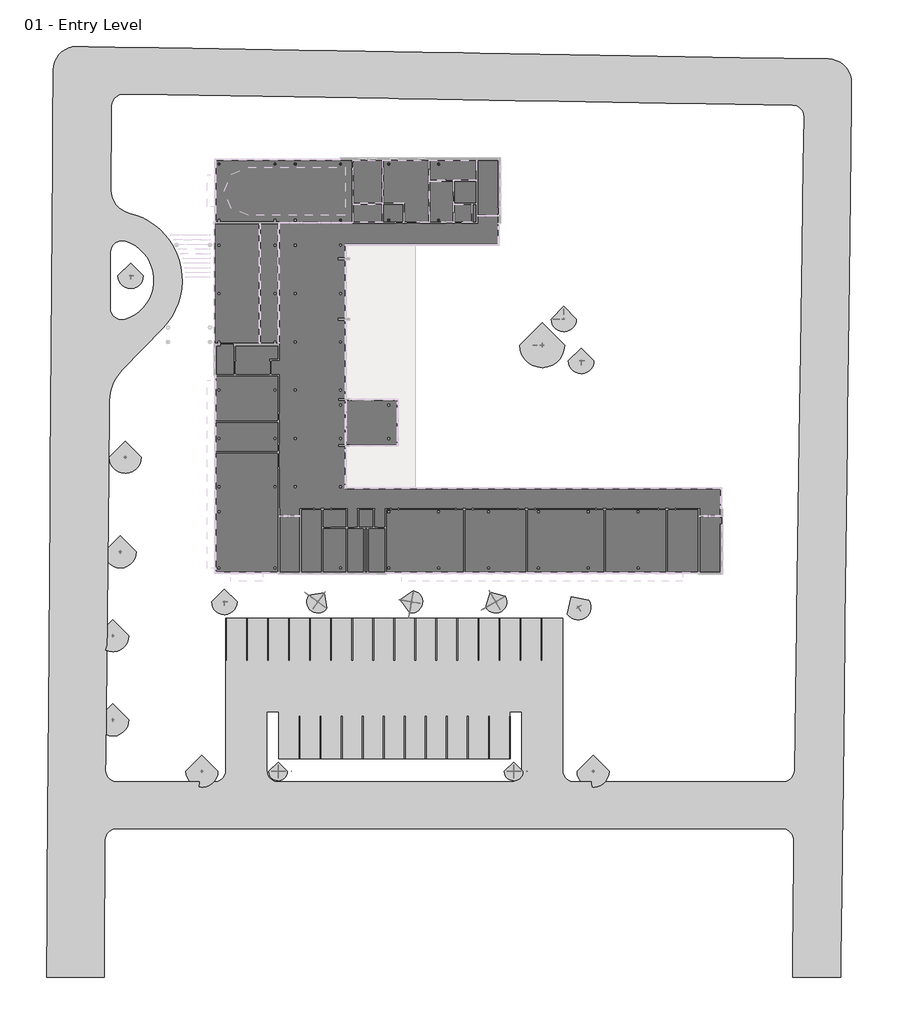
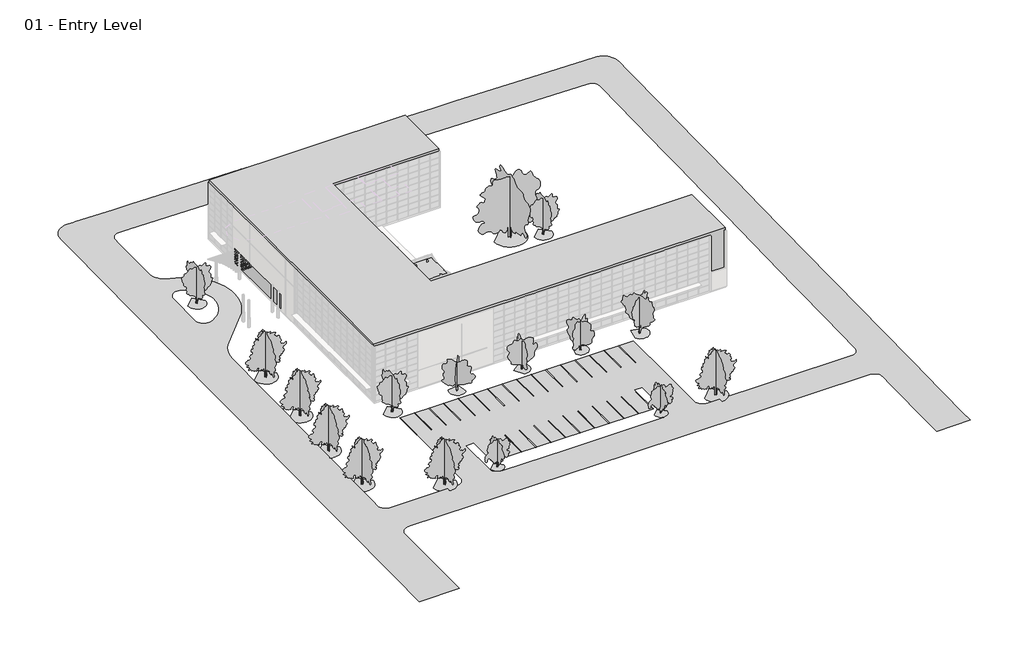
# One storey, part 34 of 34: 30 proxies, 17 geographic elements, 15 furniture elements, 9 columns.
"""IFC4 building model written with IfcOpenShell, lengths in millimetres."""

from ifc_helpers import new_model, si_unit, point, frame_2d, origin, origin_with_axes, place, context, project, spatial, polyline, circle_curve, trimmed, segment, composite_curve, outline, extrude, triangles, transform, mapped, element, save
from components import parking_space_9_x_18_90_deg_b8b21359, furniture_f004630c, rpc_tree_deciduous_american_beech_20_b3c041c8, rpc_tree_deciduous_golden_chain_18_92130817, rpc_tree_deciduous_honey_locust_25_cc46a1f1, rpc_tree_deciduous_red_ash_25_14781bec, rpc_tree_deciduous_red_maple_30_cba750cc, rpc_tree_deciduous_scarlet_oak_42_9b182cbb

model = new_model("IFC4")

# Units and contexts
model_context = context("Model", 3, world=origin())
ifc_project = project(units=[si_unit("LENGTHUNIT", "METRE", prefix="MILLI")], contexts=[model_context])

# Site, building, storey
site = spatial("IfcSite", under=ifc_project)
building = spatial("IfcBuilding", under=site)
storey = spatial("IfcBuildingStorey", under=building, Name="01 - Entry Level", Elevation=0.0)

# Proxies
placement = place(None, origin())
element("IfcBuildingElementProxy", 1, Name="Building Element Proxy", at=placement, inside=storey, context=model_context, shape_type="Tessellation", body=[
    triangles([(-20951.5374207, 65536.799707, 0.0), (-20952.3466736, 65428.1737793, 0.0), (-20960.1206177, 64383.2887207, 0.0), (-20996.1184204, 59545.0584595, 0.0), (-21005.5713318, 58274.2244019, 0.0), (-21027.088623, 55382.3730103, 0.0), (-21041.8109802, 53403.372876, 0.0), (-21336.539502, 13790.1222198, -63.9085037), (-21377.7997742, 8244.3444489, -68.5632705), (-21573.3855103, -18043.7230499, -82.5216981), (-21616.1294128, -23788.6921509, -81.5271458), (-21677.211731, -31998.81427, -82.899046), (-21737.5499084, -40108.6587891, -84.2541959), (-21771.6850342, -44696.5182861, -83.7693963), (-21831.9674011, -52798.8609375, -85.1033628), (-14322.3478729, -52798.8609375, -96.0960239), (-14281.4852509, -45101.0377808, -94.804642), (-14253.9253052, -39909.098877, -95.3369042), (-14227.4373871, -34919.2197327, -94.4872922), (-14187.690976, -34581.4310486, -94.4861658), (-14074.0176819, -34260.86922, -94.5979413), (-13892.0822754, -33973.5007141, -94.8170413), (-13650.9435059, -33733.6386108, -95.1325653), (-13362.6145935, -33553.2310181, -95.5287893), (-13041.4539642, -33441.2611084, -95.9859834), (-12703.458316, -33403.3099365, -96.4813747), (28841.9744019, -33403.3099365, -158.2045331), (74050.6428223, -33403.3099365, -225.3700736), (74391.5894531, -33441.9378113, -225.883487), (74715.253418, -33555.8634155, -226.3846374), (75005.2310669, -33739.3126831, -226.8481447), (75246.8116699, -33982.9838562, -227.2504639), (75427.7587646, -34274.5265259, -227.5712292), (75538.8915161, -34599.160199, -227.7941807), (75549.6303955, -34701.839978, -227.8284265), (75574.5823608, -34940.4277405, -227.9080001), (75552.4255737, -37514.2985413, -228.3336282), (75445.3948975, -49946.8768799, -226.9983899), (75420.8429077, -52798.8609375, -227.4630599), (81696.576123, -52798.8609375, -236.649545), (81726.7510254, -50286.1119873, -236.2526579), (81882.1275879, -37345.508844, -237.7074383), (81911.7443848, -34878.7152283, -237.3119864), (81941.7146484, -32382.6675842, -236.9118291), (82142.1861328, -15686.4832123, -239.9176413), (82234.2456299, -8018.5681137, -235.899718), (82253.6490967, -6402.5353592, -234.5542514), (82535.0365723, 17032.6975525, -196.8883819), (82579.7687256, 20757.7608765, -197.739529), (82630.5470215, 24987.3794495, -197.9025096), (82680.264917, 29127.9383423, -188.1372808), (82736.3173096, 33796.23479, -187.5318672), (82793.7463623, 38578.9986694, -187.7452808), (82855.6495605, 43735.1304565, -175.5348706), (82922.4361816, 49297.5351196, -171.8794796), (83062.6973877, 60978.7569946, -168.736957), (83097.2441162, 63856.4046021, -167.7387803), (83057.5442139, 64384.6839844, -167.4271896), (82926.9754395, 64898.1084595, -166.8679396), (82709.4724365, 65381.1719971, -166.077926), (82411.6208496, 65819.2754883, -165.0810029), (82042.396875, 66199.1871826, -163.90731), (81612.9812256, 66509.4333618, -162.592274), (81136.3219482, 66740.637854, -161.1756453), (80626.8367676, 66885.8150391, -159.7002266), (80099.9014893, 66940.5791382, -158.2105647), (68550.9785156, 67131.7163086, -125.9449015), (54223.2577148, 67368.8413696, -85.4636152), (50301.6133667, 67433.7443848, -75.3097337), (34613.6197815, 67693.3796997, -53.6210048), (32524.7007751, 67727.9496826, -47.7922091), (30878.3966125, 67755.1991821, -43.3861009), (16017.8153137, 68001.1423096, -27.5484457), (15150.1694366, 68015.4995728, -25.3253051), (14493.3560394, 68026.3686768, -23.5577077), (-2856.9395691, 68313.5185913, 0.0), (-6105.6604568, 68367.2827515, 0.0), (-7229.526741, 68385.8862671, 0.0), (-9490.7486023, 68423.3072388, 0.0), (-16418.6885193, 68537.9653564, 0.0), (-16858.905835, 68545.2486328, 0.0), (-17853.1846802, 68561.7080933, 0.0), (-18386.2044708, 68523.6778564, 0.0), (-18904.3914459, 68393.1462891, 0.0), (-19391.8163452, 68174.1177979, 0.0), (-19833.5010132, 67873.3361572, 0.0), (-20215.8637207, 67500.0333618, 0.0), (-20527.1586731, 67065.6924316, 0.0), (-20757.8120361, 66583.6613892, 0.0), (-20900.7358704, 66068.7532837, 0.0), (75444.1484619, 60920.7977417, -147.2674009), (75782.2208496, 60877.0748291, -148.2341296), (76102.1129517, 60759.2959717, -149.1720175), (76387.8257446, 60573.3631348, -150.034156), (76625.0624268, 60328.5734253, -150.7773974), (76801.9539551, 60037.1772583, -151.3645527), (76909.6543579, 59713.7504883, -151.7662632), (76942.7639648, 59374.4735229, -151.9624086), (76850.2951904, 53121.041272, -153.5956937), (76776.9415283, 48160.2975586, -156.8201517), (76689.807312, 42267.4991089, -170.7530767), (76625.6019287, 37925.6966858, -170.525656), (76562.9638916, 33689.4459595, -171.0435568), (76492.8890991, 28950.6421875, -182.206193), (76435.4181885, 25063.9980286, -182.0287329), (76384.816626, 21641.9650452, -181.2211877), (75988.185022, -5181.2186279, -224.2330609), (75960.7913452, -7033.8881012, -225.7679054), (75830.7248657, -15829.9302704, -230.3395559), (75683.2129395, -25805.8411194, -228.5016048), (75640.7550659, -26141.2322754, -228.3830438), (75525.3946655, -26459.0128784, -228.1569674), (75342.8197632, -26743.5396973, -227.8345126), (75102.0112061, -26980.8182373, -227.4315393), (74814.8101318, -27159.1678162, -226.9678867), (74495.3645142, -27269.8122253, -226.466373), (74159.3803711, -27307.3099365, -225.9516696), (46965.1193481, -27307.3099365, -184.7824166), (46625.9958618, -27269.0983154, -184.2751983), (46303.8759888, -27156.3865906, -183.8058047), (46014.9168823, -26974.820929, -183.3977264), (45773.6060303, -26733.5077515, -183.0714745), (45592.0403687, -26444.548645, -182.8433634), (45479.3263184, -26122.4310974, -182.7248569), (45441.1193481, -25783.3099365, -182.7219137), (45441.1193481, -16520.622995, -184.2210955), (45441.1193481, -5971.3087738, -178.4995515), (1550.3207771, -5971.3087738, -111.3510339), (1550.3207771, -17518.1690826, -117.6136059), (1550.3207771, -25711.2096863, -116.2875422), (1550.3207771, -25783.3099365, -116.3003866), (1512.1109001, -26122.4310974, -116.3040292), (1399.3972858, -26444.548645, -116.1939614), (1217.8319149, -26733.5077515, -115.9756971), (976.5191734, -26974.820929, -115.6601732), (687.5595583, -27156.3865906, -115.2632134), (365.4426647, -27269.0983154, -114.8047385), (26.3207476, -27307.3099365, -114.3077121), (-12624.7305634, -27307.3099365, -95.5123205), (-12966.0481018, -27268.5960205, -94.9983348), (-13290.0248383, -27154.4262451, -94.4966757), (-13580.2013123, -26970.5956055, -94.0328141), (-13821.8377258, -26726.4477173, -93.6303223), (-14002.6557587, -26434.3841492, -93.309657), (-14113.4687622, -26109.2435303, -93.087096), (-14148.649173, -25767.5457825, -92.973958), (-14134.602356, -24409.5612305, -92.7528959), (-14066.9878784, -17873.1183472, -93.9131993), (-13809.1117584, 7056.365799, -80.7869202), (-13754.7441467, 12312.215918, -76.3981075), (-13651.822522, 22261.9504578, -60.3845455), (-13595.1364471, 23030.6640015, -59.2122061), (-13441.8992889, 23786.0806824, -58.1899483), (-13194.5608978, 24516.1198425, -57.334123), (-12857.0756836, 25209.1101013, -56.6584103), (-12434.8386658, 25853.9753906, -56.1736152), (-11934.6005951, 26440.4023865, -55.8874908), (-6619.5267654, 31927.0837646, -54.0552988), (-6008.4547623, 32644.9562256, -53.7033172), (-5475.9047104, 33422.8645569, -53.1493812), (-5027.7297409, 34252.2534668, -52.3995814), (-4668.856588, 35124.0118835, -51.4621613), (-4403.2312317, 36028.5520203, -50.3474219), (-4233.7729706, 36955.9302979, -49.0676172), (-4162.3444817, 37895.9566406, -47.6368225), (-4189.7311821, 38838.2944702, -46.0707571), (-4315.6319275, 39772.5816284, -44.3866439), (-4538.6630814, 40688.5582764, -42.6029909), (-4856.3724678, 41576.1459595, -40.7394056), (-5265.2675674, 42425.5871338, -38.8163761), (-5760.8541779, 43227.5474854, -36.8550428), (-6337.6835037, 43973.2135986, -34.8769614), (-6989.4152344, 44654.3859741, -32.9038805), (-7708.8846909, 45263.5766968, -30.9574899), (-8488.1836349, 45794.088501, -29.0591819), (-9318.7445663, 46240.0938354, -27.2298264), (-10191.4383911, 46596.6813721, -25.4895347), (-11096.6703461, 46859.9397217, -23.8574328), (-11584.3254639, 47018.7300293, -22.9506613), (-12038.4535583, 47257.0317627, -21.9594381), (-12446.1984375, 47568.1057983, -20.9118322), (-12796.0166199, 47943.1387207, -19.8375019), (-13078.0028961, 48371.5125732, -18.7668584), (-13284.1751953, 48841.1025146, -17.7302189), (-13408.6955017, 49338.6116821, -16.7569282), (-13448.0384491, 49849.9572144, -15.8745443), (-13374.830127, 59689.6868408, 0.0), (-13366.1783295, 60852.5181885, 0.0), (-13324.9901459, 61193.2787842, 0.0), (-13208.5879486, 61516.175354, 0.0), (-13022.8771912, 61804.8321533, 0.0), (-12777.277066, 62044.6128662, 0.0), (-12484.2472778, 62223.3461426, 0.0), (-12158.6497101, 62331.9674194, 0.0), (-11817.0019592, 62364.974707, 0.0), (-10145.7039734, 62337.3112793, 0.0), (22812.1657104, 61791.8608521, -44.749199), (24059.8197876, 61771.2109497, -48.1068519), (25707.9610474, 61743.9335449, -52.3298318), (39240.2699341, 61519.9751221, -66.7518848), (41773.1990479, 61478.0520996, -73.5309178), (44987.114502, 61424.8646484, -82.4988343), (58871.4716675, 61195.0786743, -101.6940289), (64167.046106, 61107.4328613, -115.405265), (-13555.6202545, 34475.8979553, -40.6867425), (-13501.5572754, 41742.2660522, -28.9638321), (-13457.1878906, 42096.16073, -28.4484361), (-13331.7792664, 42430.0473267, -28.0733682), (-13132.2007507, 42725.6478882, -27.8591689), (-12869.3842346, 42966.7634033, -27.8175699), (-12557.7218628, 43140.1946777, -27.9508511), (-12214.2870117, 43236.4353149, -28.2517094), (-11857.8878357, 43250.2158691, -28.7036713), (-11508.0463989, 43180.7875488, -29.281979), (-10848.8610535, 42917.6640747, -30.5863939), (-10230.4453125, 42569.3551025, -31.9748288), (-9663.7490891, 42142.0230469, -33.4226987), (-9158.806073, 41643.2348877, -34.9043716), (-8724.5569977, 41081.8179932, -36.3936112), (-8368.6897659, 40467.7205933, -37.8640474), (-8097.5057373, 39811.811792, -39.2896485), (-7915.8069443, 39125.704834, -40.6451708), (-7826.810051, 38421.5478149, -41.9066172), (-7832.0905426, 37711.8097412, -43.0516463), (-7931.5548203, 37009.0549622, -44.0599878), (-8123.4431076, 36325.7269043, -44.9137919), (-8404.3561935, 35673.9248291, -45.5979344), (-8769.3211258, 35065.1898926, -46.1003065), (-9211.8760895, 34510.2981812, -46.4120154), (-9724.184935, 34019.0793274, -46.5275379), (-10297.176123, 33600.225824, -46.4448259), (-10920.7066681, 33261.1558228, -46.1653507), (-11583.7336395, 33007.871283, -45.6940586), (-11934.5703644, 32943.6542725, -45.3313627), (-12290.7242065, 32962.7391541, -44.826379), (-12632.6893799, 33064.07948, -44.2067584), (-12941.7356323, 33242.1267517, -43.5064378), (-13200.9360901, 33487.1257507, -42.7637824), (-13396.095108, 33785.6610168, -42.0194555), (-13516.5214783, 34121.3800598, -41.3142342), (6884.3204865, -18163.3087738, -125.584304), (8408.3204865, -18163.3087738, -127.891476), (8408.3204865, -24259.3099365, -126.9048265), (38583.1170227, -24259.3099365, -172.586286), (38583.1170227, -18163.3087738, -173.5729445), (40107.1193481, -18163.3087738, -175.8801075), (40107.1193481, -25783.3099365, -174.6467889), (40068.9077271, -26122.4310974, -174.5340596), (39956.1936768, -26444.548645, -174.3112897), (39774.6280151, -26733.5077515, -173.9896524), (39533.3171631, -26974.820929, -173.5852621), (39244.3580566, -27156.3865906, -173.1184301), (38922.2381836, -27269.0983154, -172.6125381), (38583.1170227, -27307.3099365, -172.0929477), (20783.3895447, -27307.3099365, -145.146046), (8408.3204865, -27307.3099365, -126.7606675), (8069.1987442, -27269.0983154, -126.2500337), (7747.081778, -27156.3865906, -125.7513995), (7458.1220901, -26974.820929, -125.2897453), (7216.809494, -26733.5077515, -124.8882436), (7035.2444138, -26444.548645, -124.567015), (6935.0011139, -26158.0707825, -124.3670545), (6922.5303635, -26122.4310974, -124.3539376), (6884.3204865, -25783.3099365, -124.3509853)], [[14, 15, 17], [16, 17, 15], [14, 17, 18], [12, 13, 19], [18, 19, 13], [13, 14, 18], [12, 19, 20], [22, 12, 21], [142, 12, 23], [23, 12, 22], [12, 142, 143], [24, 141, 142], [141, 24, 25], [23, 24, 142], [21, 12, 20], [12, 143, 144], [11, 146, 147], [146, 11, 145], [11, 144, 145], [11, 147, 148], [149, 9, 10], [148, 149, 10], [9, 150, 8], [10, 11, 148], [151, 8, 150], [151, 152, 8], [152, 153, 8], [8, 240, 205], [240, 153, 239], [240, 8, 153], [154, 239, 153], [150, 9, 149], [11, 12, 144], [8, 205, 7], [140, 25, 26], [26, 139, 140], [237, 238, 156], [238, 239, 155], [237, 157, 236], [238, 155, 156], [140, 141, 25], [157, 235, 236], [157, 158, 232], [231, 232, 158], [234, 235, 157], [232, 233, 157], [234, 157, 233], [158, 159, 229], [157, 237, 156], [230, 158, 229], [158, 230, 231], [227, 228, 160], [225, 226, 163], [227, 161, 226], [159, 228, 229], [161, 162, 226], [162, 163, 226], [163, 164, 225], [166, 222, 223], [224, 165, 223], [164, 165, 224], [222, 166, 167], [225, 164, 224], [222, 167, 168], [161, 227, 160], [159, 160, 228], [26, 138, 139], [155, 239, 154], [7, 206, 207], [185, 7, 184], [7, 207, 208], [7, 185, 186], [7, 186, 6], [187, 5, 6], [187, 4, 5], [187, 6, 186], [206, 7, 205], [183, 208, 209], [210, 182, 209], [182, 210, 181], [183, 209, 182], [187, 188, 4], [183, 184, 208], [184, 7, 208], [4, 188, 189], [1, 82, 90], [90, 82, 89], [82, 1, 2], [83, 87, 88], [84, 86, 87], [82, 88, 89], [2, 3, 81], [3, 190, 191], [190, 3, 189], [82, 83, 88], [191, 80, 3], [85, 86, 84], [87, 83, 84], [2, 81, 82], [80, 81, 3], [191, 192, 80], [3, 4, 189], [175, 215, 216], [173, 217, 218], [174, 216, 217], [211, 212, 180], [178, 213, 214], [179, 212, 213], [214, 215, 177], [170, 219, 220], [220, 221, 169], [168, 221, 222], [168, 169, 221], [218, 171, 172], [171, 219, 170], [220, 169, 170], [171, 218, 219], [218, 172, 173], [180, 181, 211], [179, 213, 178], [180, 212, 179], [194, 80, 193], [194, 195, 79], [194, 79, 80], [215, 176, 177], [176, 215, 175], [214, 177, 178], [78, 79, 196], [77, 78, 196], [196, 79, 195], [196, 76, 77], [216, 174, 175], [173, 174, 217], [193, 80, 192], [181, 210, 211], [26, 257, 137], [136, 257, 258], [257, 136, 137], [26, 137, 138], [134, 135, 259], [258, 259, 135], [135, 136, 258], [260, 134, 259], [255, 256, 27], [27, 254, 255], [254, 27, 253], [257, 26, 256], [120, 252, 253], [250, 251, 122], [252, 121, 251], [253, 27, 119], [256, 26, 27], [132, 133, 262], [262, 263, 132], [133, 261, 262], [132, 263, 131], [130, 131, 264], [264, 241, 130], [131, 263, 264], [260, 261, 133], [243, 244, 245], [248, 249, 124], [246, 247, 125], [245, 246, 127], [248, 125, 247], [133, 134, 260], [243, 245, 242], [250, 123, 249], [129, 130, 241], [39, 41, 38], [44, 32, 33], [28, 29, 117], [115, 30, 31], [116, 29, 30], [31, 32, 44], [118, 27, 28], [41, 42, 38], [41, 39, 40], [42, 37, 38], [37, 42, 36], [34, 35, 43], [36, 43, 35], [43, 36, 42], [33, 34, 44], [43, 44, 34], [121, 252, 120], [27, 118, 119], [253, 119, 120], [124, 125, 248], [122, 123, 250], [124, 249, 123], [121, 122, 251], [117, 29, 116], [31, 114, 115], [115, 116, 30], [118, 28, 117], [113, 114, 44], [111, 112, 44], [110, 111, 44], [113, 44, 112], [44, 45, 110], [44, 114, 31], [246, 125, 126], [129, 241, 128], [128, 241, 242], [128, 245, 127], [126, 127, 246], [242, 245, 128], [165, 166, 223], [47, 107, 108], [48, 106, 107], [108, 109, 46], [67, 91, 66], [66, 92, 93], [66, 91, 92], [204, 91, 67], [197, 198, 72], [199, 72, 198], [72, 199, 71], [197, 72, 73], [75, 76, 196], [73, 74, 197], [75, 197, 74], [197, 75, 196], [70, 200, 201], [69, 201, 202], [69, 202, 203], [70, 71, 200], [68, 69, 203], [67, 68, 203], [70, 201, 69], [203, 204, 67], [200, 71, 199], [93, 94, 66], [50, 104, 105], [47, 108, 46], [109, 45, 46], [103, 104, 51], [102, 103, 52], [101, 102, 53], [101, 54, 100], [107, 47, 48], [49, 106, 48], [50, 105, 106], [50, 106, 49], [51, 52, 103], [53, 54, 101], [52, 53, 102], [50, 51, 104], [100, 54, 55], [56, 96, 97], [97, 98, 56], [56, 95, 96], [57, 94, 95], [57, 65, 66], [58, 64, 65], [66, 94, 57], [98, 99, 56], [64, 58, 59], [95, 56, 57], [57, 58, 65], [62, 63, 60], [62, 60, 61], [60, 63, 59], [64, 59, 63], [56, 99, 55], [99, 100, 55], [110, 45, 109]], closed=False),
])
element("IfcBuildingElementProxy", 2, Name="Main Building : Main Building", ObjectType="Main Building : Main Building", at=placement, inside=storey, context=model_context, shape_type="SweptSolid", body=[
    extrude(outline(polyline([(140.6207476, 53.9), (140.6207476, 53724.1), (37046.8207476, 53724.1), (37046.8207476, 42852.9), (17082.4207476, 42852.9), (17082.4207476, 10899.7), (66207.5000011, 10899.7), (66207.5000011, 53.9), (140.6207476, 53.9)])), origin_with_axes(), (0.0, 0.0, 1.0), 11430.0),
])
parking_space_9_x_18_90_deg_shape = parking_space_9_x_18_90_deg_b8b21359(model_context)
element("IfcBuildingElementProxy", 3, Name="Parking Space : 9' x 18' - 90 deg", ObjectType="Parking Space : 9' x 18' - 90 deg", at=placement, inside=storey, context=model_context, shape_type="MappedRepresentation", body=[
    mapped(parking_space_9_x_18_90_deg_shape, transform((42697.9170451, -5971.3090298, -173.2887691), x_axis=(1.0, 0.0, 0.0), y_axis=(0.0, 1.0, 0.0), z_axis=(0.0, 0.0, 1.0))),
])
element("IfcBuildingElementProxy", 4, Name="Parking Space : 9' x 18' - 90 deg", ObjectType="Parking Space : 9' x 18' - 90 deg", at=placement, inside=storey, context=model_context, shape_type="MappedRepresentation", body=[
    mapped(parking_space_9_x_18_90_deg_shape, transform((11151.5207476, -24259.3090298, -130.2766543), x_axis=(-1.0, 0.0, 0.0), y_axis=(0.0, -1.0, 0.0), z_axis=(0.0, 0.0, 1.0))),
])
element("IfcBuildingElementProxy", 5, Name="Parking Space : 9' x 18' - 90 deg", ObjectType="Parking Space : 9' x 18' - 90 deg", at=placement, inside=storey, context=model_context, shape_type="MappedRepresentation", body=[
    mapped(parking_space_9_x_18_90_deg_shape, transform((39954.7170451, -5971.3090298, -169.325493), x_axis=(1.0, 0.0, 0.0), y_axis=(0.0, 1.0, 0.0), z_axis=(0.0, 0.0, 1.0))),
])
element("IfcBuildingElementProxy", 6, Name="Parking Space : 9' x 18' - 90 deg", ObjectType="Parking Space : 9' x 18' - 90 deg", at=placement, inside=storey, context=model_context, shape_type="MappedRepresentation", body=[
    mapped(parking_space_9_x_18_90_deg_shape, transform((37211.5170451, -5971.3090298, -165.1287215), x_axis=(1.0, 0.0, 0.0), y_axis=(0.0, 1.0, 0.0), z_axis=(0.0, 0.0, 1.0))),
])
element("IfcBuildingElementProxy", 7, Name="Parking Space : 9' x 18' - 90 deg", ObjectType="Parking Space : 9' x 18' - 90 deg", at=placement, inside=storey, context=model_context, shape_type="MappedRepresentation", body=[
    mapped(parking_space_9_x_18_90_deg_shape, transform((34468.3170451, -5971.3090298, -160.9319002), x_axis=(1.0, 0.0, 0.0), y_axis=(0.0, 1.0, 0.0), z_axis=(0.0, 0.0, 1.0))),
])
element("IfcBuildingElementProxy", 8, Name="Parking Space : 9' x 18' - 90 deg", ObjectType="Parking Space : 9' x 18' - 90 deg", at=placement, inside=storey, context=model_context, shape_type="MappedRepresentation", body=[
    mapped(parking_space_9_x_18_90_deg_shape, transform((31725.1170451, -5971.3090298, -156.7350789), x_axis=(1.0, 0.0, 0.0), y_axis=(0.0, 1.0, 0.0), z_axis=(0.0, 0.0, 1.0))),
])
element("IfcBuildingElementProxy", 9, Name="Parking Space : 9' x 18' - 90 deg", ObjectType="Parking Space : 9' x 18' - 90 deg", at=placement, inside=storey, context=model_context, shape_type="MappedRepresentation", body=[
    mapped(parking_space_9_x_18_90_deg_shape, transform((28981.9170451, -5971.3090298, -152.5382576), x_axis=(1.0, 0.0, 0.0), y_axis=(0.0, 1.0, 0.0), z_axis=(0.0, 0.0, 1.0))),
])
element("IfcBuildingElementProxy", 10, Name="Parking Space : 9' x 18' - 90 deg", ObjectType="Parking Space : 9' x 18' - 90 deg", at=placement, inside=storey, context=model_context, shape_type="MappedRepresentation", body=[
    mapped(parking_space_9_x_18_90_deg_shape, transform((26238.7170451, -5971.3090298, -148.3414362), x_axis=(1.0, 0.0, 0.0), y_axis=(0.0, 1.0, 0.0), z_axis=(0.0, 0.0, 1.0))),
])
element("IfcBuildingElementProxy", 11, Name="Parking Space : 9' x 18' - 90 deg", ObjectType="Parking Space : 9' x 18' - 90 deg", at=placement, inside=storey, context=model_context, shape_type="MappedRepresentation", body=[
    mapped(parking_space_9_x_18_90_deg_shape, transform((23495.5170451, -5971.3090298, -144.1446149), x_axis=(1.0, 0.0, 0.0), y_axis=(0.0, 1.0, 0.0), z_axis=(0.0, 0.0, 1.0))),
])
element("IfcBuildingElementProxy", 12, Name="Parking Space : 9' x 18' - 90 deg", ObjectType="Parking Space : 9' x 18' - 90 deg", at=placement, inside=storey, context=model_context, shape_type="MappedRepresentation", body=[
    mapped(parking_space_9_x_18_90_deg_shape, transform((20752.3170451, -5971.3090298, -139.9477936), x_axis=(1.0, 0.0, 0.0), y_axis=(0.0, 1.0, 0.0), z_axis=(0.0, 0.0, 1.0))),
])
element("IfcBuildingElementProxy", 13, Name="Parking Space : 9' x 18' - 90 deg", ObjectType="Parking Space : 9' x 18' - 90 deg", at=placement, inside=storey, context=model_context, shape_type="MappedRepresentation", body=[
    mapped(parking_space_9_x_18_90_deg_shape, transform((18009.1170451, -5971.3090298, -135.7509349), x_axis=(1.0, 0.0, 0.0), y_axis=(0.0, 1.0, 0.0), z_axis=(0.0, 0.0, 1.0))),
])
element("IfcBuildingElementProxy", 14, Name="Parking Space : 9' x 18' - 90 deg", ObjectType="Parking Space : 9' x 18' - 90 deg", at=placement, inside=storey, context=model_context, shape_type="MappedRepresentation", body=[
    mapped(parking_space_9_x_18_90_deg_shape, transform((15265.9170451, -5971.3090298, -131.5520962), x_axis=(1.0, 0.0, 0.0), y_axis=(0.0, 1.0, 0.0), z_axis=(0.0, 0.0, 1.0))),
])
element("IfcBuildingElementProxy", 15, Name="Parking Space : 9' x 18' - 90 deg", ObjectType="Parking Space : 9' x 18' - 90 deg", at=placement, inside=storey, context=model_context, shape_type="MappedRepresentation", body=[
    mapped(parking_space_9_x_18_90_deg_shape, transform((12522.7170451, -5971.3090298, -127.333322), x_axis=(1.0, 0.0, 0.0), y_axis=(0.0, 1.0, 0.0), z_axis=(0.0, 0.0, 1.0))),
])
element("IfcBuildingElementProxy", 16, Name="Parking Space : 9' x 18' - 90 deg", ObjectType="Parking Space : 9' x 18' - 90 deg", at=placement, inside=storey, context=model_context, shape_type="MappedRepresentation", body=[
    mapped(parking_space_9_x_18_90_deg_shape, transform((9779.5170451, -5971.3090298, -123.1145478), x_axis=(1.0, 0.0, 0.0), y_axis=(0.0, 1.0, 0.0), z_axis=(0.0, 0.0, 1.0))),
])
element("IfcBuildingElementProxy", 17, Name="Parking Space : 9' x 18' - 90 deg", ObjectType="Parking Space : 9' x 18' - 90 deg", at=placement, inside=storey, context=model_context, shape_type="MappedRepresentation", body=[
    mapped(parking_space_9_x_18_90_deg_shape, transform((7036.3170451, -5971.3090298, -118.9197844), x_axis=(1.0, 0.0, 0.0), y_axis=(0.0, 1.0, 0.0), z_axis=(0.0, 0.0, 1.0))),
])
element("IfcBuildingElementProxy", 18, Name="Parking Space : 9' x 18' - 90 deg", ObjectType="Parking Space : 9' x 18' - 90 deg", at=placement, inside=storey, context=model_context, shape_type="MappedRepresentation", body=[
    mapped(parking_space_9_x_18_90_deg_shape, transform((4293.1170451, -5971.3090298, -114.744916), x_axis=(1.0, 0.0, 0.0), y_axis=(0.0, 1.0, 0.0), z_axis=(0.0, 0.0, 1.0))),
])
element("IfcBuildingElementProxy", 19, Name="Parking Space : 9' x 18' - 90 deg", ObjectType="Parking Space : 9' x 18' - 90 deg", at=placement, inside=storey, context=model_context, shape_type="MappedRepresentation", body=[
    mapped(parking_space_9_x_18_90_deg_shape, transform((1549.9170451, -5971.3090298, -110.5700444), x_axis=(1.0, 0.0, 0.0), y_axis=(0.0, 1.0, 0.0), z_axis=(0.0, 0.0, 1.0))),
])
element("IfcBuildingElementProxy", 20, Name="Parking Space : 9' x 18' - 90 deg", ObjectType="Parking Space : 9' x 18' - 90 deg", at=placement, inside=storey, context=model_context, shape_type="MappedRepresentation", body=[
    mapped(parking_space_9_x_18_90_deg_shape, transform((13894.7207476, -24259.3090298, -134.4295698), x_axis=(-1.0, 0.0, 0.0), y_axis=(0.0, -1.0, 0.0), z_axis=(0.0, 0.0, 1.0))),
])
element("IfcBuildingElementProxy", 21, Name="Parking Space : 9' x 18' - 90 deg", ObjectType="Parking Space : 9' x 18' - 90 deg", at=placement, inside=storey, context=model_context, shape_type="MappedRepresentation", body=[
    mapped(parking_space_9_x_18_90_deg_shape, transform((16637.9207476, -24259.3090298, -138.5824852), x_axis=(-1.0, 0.0, 0.0), y_axis=(0.0, -1.0, 0.0), z_axis=(0.0, 0.0, 1.0))),
])
element("IfcBuildingElementProxy", 22, Name="Parking Space : 9' x 18' - 90 deg", ObjectType="Parking Space : 9' x 18' - 90 deg", at=placement, inside=storey, context=model_context, shape_type="MappedRepresentation", body=[
    mapped(parking_space_9_x_18_90_deg_shape, transform((19381.1207476, -24259.3090298, -142.7354006), x_axis=(-1.0, 0.0, 0.0), y_axis=(0.0, -1.0, 0.0), z_axis=(0.0, 0.0, 1.0))),
])
element("IfcBuildingElementProxy", 23, Name="Parking Space : 9' x 18' - 90 deg", ObjectType="Parking Space : 9' x 18' - 90 deg", at=placement, inside=storey, context=model_context, shape_type="MappedRepresentation", body=[
    mapped(parking_space_9_x_18_90_deg_shape, transform((22124.3207476, -24259.3090298, -146.8885369), x_axis=(-1.0, 0.0, 0.0), y_axis=(0.0, -1.0, 0.0), z_axis=(0.0, 0.0, 1.0))),
])
element("IfcBuildingElementProxy", 24, Name="Parking Space : 9' x 18' - 90 deg", ObjectType="Parking Space : 9' x 18' - 90 deg", at=placement, inside=storey, context=model_context, shape_type="MappedRepresentation", body=[
    mapped(parking_space_9_x_18_90_deg_shape, transform((24867.5207476, -24259.3090298, -151.0419482), x_axis=(-1.0, 0.0, 0.0), y_axis=(0.0, -1.0, 0.0), z_axis=(0.0, 0.0, 1.0))),
])
element("IfcBuildingElementProxy", 25, Name="Parking Space : 9' x 18' - 90 deg", ObjectType="Parking Space : 9' x 18' - 90 deg", at=placement, inside=storey, context=model_context, shape_type="MappedRepresentation", body=[
    mapped(parking_space_9_x_18_90_deg_shape, transform((27610.7207476, -24259.3090298, -155.1948637), x_axis=(-1.0, 0.0, 0.0), y_axis=(0.0, -1.0, 0.0), z_axis=(0.0, 0.0, 1.0))),
])
element("IfcBuildingElementProxy", 26, Name="Parking Space : 9' x 18' - 90 deg", ObjectType="Parking Space : 9' x 18' - 90 deg", at=placement, inside=storey, context=model_context, shape_type="MappedRepresentation", body=[
    mapped(parking_space_9_x_18_90_deg_shape, transform((30353.9207476, -24259.3090298, -159.3477791), x_axis=(-1.0, 0.0, 0.0), y_axis=(0.0, -1.0, 0.0), z_axis=(0.0, 0.0, 1.0))),
])
element("IfcBuildingElementProxy", 27, Name="Parking Space : 9' x 18' - 90 deg", ObjectType="Parking Space : 9' x 18' - 90 deg", at=placement, inside=storey, context=model_context, shape_type="MappedRepresentation", body=[
    mapped(parking_space_9_x_18_90_deg_shape, transform((33097.1207476, -24259.3090298, -163.497309), x_axis=(-1.0, 0.0, 0.0), y_axis=(0.0, -1.0, 0.0), z_axis=(0.0, 0.0, 1.0))),
])
element("IfcBuildingElementProxy", 28, Name="Parking Space : 9' x 18' - 90 deg", ObjectType="Parking Space : 9' x 18' - 90 deg", at=placement, inside=storey, context=model_context, shape_type="MappedRepresentation", body=[
    mapped(parking_space_9_x_18_90_deg_shape, transform((35840.3207476, -24259.3090298, -167.65361), x_axis=(-1.0, 0.0, 0.0), y_axis=(0.0, -1.0, 0.0), z_axis=(0.0, 0.0, 1.0))),
])
element("IfcBuildingElementProxy", 29, Name="Parking Space : 9' x 18' - 90 deg", ObjectType="Parking Space : 9' x 18' - 90 deg", at=placement, inside=storey, context=model_context, shape_type="MappedRepresentation", body=[
    mapped(parking_space_9_x_18_90_deg_shape, transform((38583.5207476, -24259.3090298, -171.7296187), x_axis=(-1.0, 0.0, 0.0), y_axis=(0.0, -1.0, 0.0), z_axis=(0.0, 0.0, 1.0))),
])
element("IfcBuildingElementProxy", 30, Name="Pavillion : Pavillion", ObjectType="Pavillion : Pavillion", at=placement, inside=storey, context=model_context, shape_type="SweptSolid", body=[
    extrude(outline(polyline([(23947.0115197, 16551.2), (17082.4207476, 16551.2), (17082.4207476, 22545.6), (23947.0115197, 22545.6), (23947.0115197, 16551.2)])), origin_with_axes(), (0.0, 0.0, 1.0), 6705.6),
])

# Columns
element("IfcColumn", 31, ObjectType="Concrete-Round-Column : 12\"", at=placement, inside=storey, context=model_context, shape_type="SweptSolid", body=[
    extrude(outline(composite_curve([segment(trimmed(circle_curve(frame_2d((635.9207476, 53228.8)), 152.4), [point((788.3207476, 53228.8))], [point((483.5207476, 53228.8))], False, "CARTESIAN"), True, "CONTINUOUS"), segment(trimmed(circle_curve(frame_2d((635.9207476, 53228.8)), 152.4), [point((483.5207476, 53228.8))], [point((788.3207476, 53228.8))], False, "CARTESIAN"), True, "CONTINUOUS")], self_intersect=False)), origin_with_axes(), (0.0, 0.0, 1.0), 3403.6),
])
element("IfcColumn", 32, ObjectType="Concrete-Round-Column : 12\"", at=placement, inside=storey, context=model_context, shape_type="SweptSolid", body=[
    extrude(outline(composite_curve([segment(trimmed(circle_curve(frame_2d((10592.7207476, 53228.8)), 152.4), [point((10745.1207476, 53228.8))], [point((10440.3207476, 53228.8))], False, "CARTESIAN"), True, "CONTINUOUS"), segment(trimmed(circle_curve(frame_2d((10592.7207476, 53228.8)), 152.4), [point((10440.3207476, 53228.8))], [point((10745.1207476, 53228.8))], False, "CARTESIAN"), True, "CONTINUOUS")], self_intersect=False)), origin_with_axes(), (0.0, 0.0, 1.0), 3403.6),
])
element("IfcColumn", 33, ObjectType="Concrete-Round-Column : 12\"", at=placement, inside=storey, context=model_context, shape_type="SweptSolid", body=[
    extrude(outline(composite_curve([segment(trimmed(circle_curve(frame_2d((16485.5207476, 53228.8)), 152.4), [point((16637.9207476, 53228.8))], [point((16333.1207476, 53228.8))], False, "CARTESIAN"), True, "CONTINUOUS"), segment(trimmed(circle_curve(frame_2d((16485.5207476, 53228.8)), 152.4), [point((16333.1207476, 53228.8))], [point((16637.9207476, 53228.8))], False, "CARTESIAN"), True, "CONTINUOUS")], self_intersect=False)), origin_with_axes(), (0.0, 0.0, 1.0), 3403.6),
])
element("IfcColumn", 34, ObjectType="Concrete-Round-Column : 12\"", at=placement, inside=storey, context=model_context, shape_type="SweptSolid", body=[
    extrude(outline(composite_curve([segment(trimmed(circle_curve(frame_2d((16485.5207476, 45913.6)), 152.4), [point((16637.9207476, 45913.6))], [point((16333.1207476, 45913.6))], False, "CARTESIAN"), True, "CONTINUOUS"), segment(trimmed(circle_curve(frame_2d((16485.5207476, 45913.6)), 152.4), [point((16333.1207476, 45913.6))], [point((16637.9207476, 45913.6))], False, "CARTESIAN"), True, "CONTINUOUS")], self_intersect=False)), origin_with_axes(), (0.0, 0.0, 1.0), 3403.6),
])
element("IfcColumn", 35, ObjectType="Concrete-Round-Column : 12\"", at=placement, inside=storey, context=model_context, shape_type="SweptSolid", body=[
    extrude(outline(composite_curve([segment(trimmed(circle_curve(frame_2d((22784.7207476, 53228.8)), 152.4), [point((22937.1207476, 53228.8))], [point((22632.3207476, 53228.8))], False, "CARTESIAN"), True, "CONTINUOUS"), segment(trimmed(circle_curve(frame_2d((22784.7207476, 53228.8)), 152.4), [point((22632.3207476, 53228.8))], [point((22937.1207476, 53228.8))], False, "CARTESIAN"), True, "CONTINUOUS")], self_intersect=False)), origin_with_axes(), (0.0, 0.0, 1.0), 3403.6),
])
element("IfcColumn", 36, ObjectType="Concrete-Round-Column : 12\"", at=placement, inside=storey, context=model_context, shape_type="SweptSolid", body=[
    extrude(outline(composite_curve([segment(trimmed(circle_curve(frame_2d((22784.7207476, 45913.6)), 152.4), [point((22937.1207476, 45913.6))], [point((22632.3207476, 45913.6))], False, "CARTESIAN"), True, "CONTINUOUS"), segment(trimmed(circle_curve(frame_2d((22784.7207476, 45913.6)), 152.4), [point((22632.3207476, 45913.6))], [point((22937.1207476, 45913.6))], False, "CARTESIAN"), True, "CONTINUOUS")], self_intersect=False)), origin_with_axes(), (0.0, 0.0, 1.0), 3403.6),
])
element("IfcColumn", 37, ObjectType="Concrete-Round-Column : 12\"", at=placement, inside=storey, context=model_context, shape_type="SweptSolid", body=[
    extrude(outline(composite_curve([segment(trimmed(circle_curve(frame_2d((29287.1207476, 53228.8)), 152.4), [point((29439.5207476, 53228.8))], [point((29134.7207476, 53228.8))], False, "CARTESIAN"), True, "CONTINUOUS"), segment(trimmed(circle_curve(frame_2d((29287.1207476, 53228.8)), 152.4), [point((29134.7207476, 53228.8))], [point((29439.5207476, 53228.8))], False, "CARTESIAN"), True, "CONTINUOUS")], self_intersect=False)), origin_with_axes(), (0.0, 0.0, 1.0), 3403.6),
])
element("IfcColumn", 38, ObjectType="Concrete-Round-Column : 12\"", at=placement, inside=storey, context=model_context, shape_type="SweptSolid", body=[
    extrude(outline(composite_curve([segment(trimmed(circle_curve(frame_2d((29287.1207476, 45913.6)), 152.4), [point((29439.5207476, 45913.6))], [point((29134.7207476, 45913.6))], False, "CARTESIAN"), True, "CONTINUOUS"), segment(trimmed(circle_curve(frame_2d((29287.1207476, 45913.6)), 152.4), [point((29134.7207476, 45913.6))], [point((29439.5207476, 45913.6))], False, "CARTESIAN"), True, "CONTINUOUS")], self_intersect=False)), origin_with_axes(), (0.0, 0.0, 1.0), 3403.6),
])
element("IfcColumn", 39, ObjectType="Concrete-Round-Column : 12\"", at=placement, inside=storey, context=model_context, shape_type="SweptSolid", body=[
    extrude(outline(composite_curve([segment(trimmed(circle_curve(frame_2d((7951.1207476, 53228.8)), 152.4), [point((8103.5207476, 53228.8))], [point((7798.7207476, 53228.8))], False, "CARTESIAN"), True, "CONTINUOUS"), segment(trimmed(circle_curve(frame_2d((7951.1207476, 53228.8)), 152.4), [point((7798.7207476, 53228.8))], [point((8103.5207476, 53228.8))], False, "CARTESIAN"), True, "CONTINUOUS")], self_intersect=False)), origin_with_axes(), (0.0, 0.0, 1.0), 3403.6),
])

# Furniture
furniture_shape = furniture_f004630c(model_context)
element("IfcFurniture", 40, ObjectType="Table-Dining Round w Chairs : 36\" Diameter", at=placement, inside=storey, context=model_context, shape_type="MappedRepresentation", body=[
    mapped(furniture_shape, transform((2221.3387804, 52334.1786885, 0.0), x_axis=(1.0, 0.0, 0.0), y_axis=(0.0, 1.0, 0.0), z_axis=(0.0, 0.0, 1.0))),
])
element("IfcFurniture", 41, ObjectType="Table-Dining Round w Chairs : 36\" Diameter", at=placement, inside=storey, context=model_context, shape_type="MappedRepresentation", body=[
    mapped(furniture_shape, transform((2221.3387804, 50048.1786885, 0.0), x_axis=(1.0, 0.0, 0.0), y_axis=(0.0, 1.0, 0.0), z_axis=(0.0, 0.0, 1.0))),
])
element("IfcFurniture", 42, ObjectType="Table-Dining Round w Chairs : 36\" Diameter", at=placement, inside=storey, context=model_context, shape_type="MappedRepresentation", body=[
    mapped(furniture_shape, transform((2221.3387804, 47470.0786885, 0.0), x_axis=(1.0, 0.0, 0.0), y_axis=(0.0, 1.0, 0.0), z_axis=(0.0, 0.0, 1.0))),
])
element("IfcFurniture", 43, ObjectType="Table-Dining Round w Chairs : 36\" Diameter", at=placement, inside=storey, context=model_context, shape_type="MappedRepresentation", body=[
    mapped(furniture_shape, transform((4354.9387804, 52334.1786885, 0.0), x_axis=(1.0, 0.0, 0.0), y_axis=(0.0, 1.0, 0.0), z_axis=(0.0, 0.0, 1.0))),
])
element("IfcFurniture", 44, ObjectType="Table-Dining Round w Chairs : 36\" Diameter", at=placement, inside=storey, context=model_context, shape_type="MappedRepresentation", body=[
    mapped(furniture_shape, transform((4354.9387804, 50048.1786885, 0.0), x_axis=(1.0, 0.0, 0.0), y_axis=(0.0, 1.0, 0.0), z_axis=(0.0, 0.0, 1.0))),
])
element("IfcFurniture", 45, ObjectType="Table-Dining Round w Chairs : 36\" Diameter", at=placement, inside=storey, context=model_context, shape_type="MappedRepresentation", body=[
    mapped(furniture_shape, transform((4354.9387804, 47470.0786885, 0.0), x_axis=(1.0, 0.0, 0.0), y_axis=(0.0, 1.0, 0.0), z_axis=(0.0, 0.0, 1.0))),
])
element("IfcFurniture", 46, ObjectType="Table-Dining Round w Chairs : 36\" Diameter", at=placement, inside=storey, context=model_context, shape_type="MappedRepresentation", body=[
    mapped(furniture_shape, transform((6488.5387804, 52334.1786885, 0.0), x_axis=(1.0, 0.0, 0.0), y_axis=(0.0, 1.0, 0.0), z_axis=(0.0, 0.0, 1.0))),
])
element("IfcFurniture", 47, ObjectType="Table-Dining Round w Chairs : 36\" Diameter", at=placement, inside=storey, context=model_context, shape_type="MappedRepresentation", body=[
    mapped(furniture_shape, transform((6488.5387804, 50048.1786885, 0.0), x_axis=(1.0, 0.0, 0.0), y_axis=(0.0, 1.0, 0.0), z_axis=(0.0, 0.0, 1.0))),
])
element("IfcFurniture", 48, ObjectType="Table-Dining Round w Chairs : 36\" Diameter", at=placement, inside=storey, context=model_context, shape_type="MappedRepresentation", body=[
    mapped(furniture_shape, transform((6488.5387804, 47470.0786885, 0.0), x_axis=(1.0, 0.0, 0.0), y_axis=(0.0, 1.0, 0.0), z_axis=(0.0, 0.0, 1.0))),
])
element("IfcFurniture", 49, ObjectType="Table-Dining Round w Chairs : 36\" Diameter", at=placement, inside=storey, context=model_context, shape_type="MappedRepresentation", body=[
    mapped(furniture_shape, transform((8622.1387804, 52334.1786885, 0.0), x_axis=(1.0, 0.0, 0.0), y_axis=(0.0, 1.0, 0.0), z_axis=(0.0, 0.0, 1.0))),
])
element("IfcFurniture", 50, ObjectType="Table-Dining Round w Chairs : 36\" Diameter", at=placement, inside=storey, context=model_context, shape_type="MappedRepresentation", body=[
    mapped(furniture_shape, transform((8622.1387804, 50048.1786885, 0.0), x_axis=(1.0, 0.0, 0.0), y_axis=(0.0, 1.0, 0.0), z_axis=(0.0, 0.0, 1.0))),
])
element("IfcFurniture", 51, ObjectType="Table-Dining Round w Chairs : 36\" Diameter", at=placement, inside=storey, context=model_context, shape_type="MappedRepresentation", body=[
    mapped(furniture_shape, transform((10755.7387804, 52334.1786885, 0.0), x_axis=(1.0, 0.0, 0.0), y_axis=(0.0, 1.0, 0.0), z_axis=(0.0, 0.0, 1.0))),
])
element("IfcFurniture", 52, ObjectType="Table-Dining Round w Chairs : 36\" Diameter", at=placement, inside=storey, context=model_context, shape_type="MappedRepresentation", body=[
    mapped(furniture_shape, transform((10755.7387804, 50048.1786885, 0.0), x_axis=(1.0, 0.0, 0.0), y_axis=(0.0, 1.0, 0.0), z_axis=(0.0, 0.0, 1.0))),
])
element("IfcFurniture", 53, ObjectType="Table-Dining Round w Chairs : 36\" Diameter", at=placement, inside=storey, context=model_context, shape_type="MappedRepresentation", body=[
    mapped(furniture_shape, transform((12889.3387804, 52334.1786885, 0.0), x_axis=(1.0, 0.0, 0.0), y_axis=(0.0, 1.0, 0.0), z_axis=(0.0, 0.0, 1.0))),
])
element("IfcFurniture", 54, ObjectType="Table-Dining Round w Chairs : 36\" Diameter", at=placement, inside=storey, context=model_context, shape_type="MappedRepresentation", body=[
    mapped(furniture_shape, transform((12889.3387804, 50048.1786885, 0.0), x_axis=(1.0, 0.0, 0.0), y_axis=(0.0, 1.0, 0.0), z_axis=(0.0, 0.0, 1.0))),
])

# Geographic elements
rpc_tree_deciduous_american_beech_20_shape = rpc_tree_deciduous_american_beech_20_b3c041c8(model_context)
element("IfcGeographicElement", 55, ObjectType="RPC Tree - Deciduous : American Beech - 20'", at=placement, inside=storey, context=model_context, shape_type="MappedRepresentation", body=[
    mapped(rpc_tree_deciduous_american_beech_20_shape, transform((13547.2665574, -3831.7512441, -128.5447402), x_axis=(0.8090169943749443, -0.5877852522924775, 0.0), y_axis=(0.5877852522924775, 0.8090169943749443, 0.0), z_axis=(0.0, 0.0, 1.0))),
])
element("IfcGeographicElement", 56, ObjectType="RPC Tree - Deciduous : American Beech - 20'", at=placement, inside=storey, context=model_context, shape_type="MappedRepresentation", body=[
    mapped(rpc_tree_deciduous_american_beech_20_shape, transform((25739.2665574, -3831.7512441, -147.1972794), x_axis=(0.17364817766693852, 0.9848077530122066, 0.0), y_axis=(-0.9848077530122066, 0.17364817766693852, 0.0), z_axis=(0.0, 0.0, 1.0))),
])
element("IfcGeographicElement", 57, ObjectType="RPC Tree - Deciduous : American Beech - 20'", at=placement, inside=storey, context=model_context, shape_type="MappedRepresentation", body=[
    mapped(rpc_tree_deciduous_american_beech_20_shape, transform((36712.0665574, -3831.7512441, -163.9845647), x_axis=(0.8660254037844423, 0.49999999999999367, 0.0), y_axis=(-0.49999999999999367, 0.8660254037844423, 0.0), z_axis=(0.0, 0.0, 1.0))),
])
rpc_tree_deciduous_golden_chain_18_shape = rpc_tree_deciduous_golden_chain_18_92130817(model_context)
element("IfcGeographicElement", 58, ObjectType="RPC Tree - Deciduous : Golden Chain - 18'", at=placement, inside=storey, context=model_context, shape_type="MappedRepresentation", body=[
    mapped(rpc_tree_deciduous_golden_chain_18_shape, transform((8353.455526, -25938.1012853, -126.7342662), x_axis=(1.0, 0.0, 0.0), y_axis=(0.0, 1.0, 0.0), z_axis=(0.0, 0.0, 1.0))),
])
element("IfcGeographicElement", 59, ObjectType="RPC Tree - Deciduous : Golden Chain - 18'", at=placement, inside=storey, context=model_context, shape_type="MappedRepresentation", body=[
    mapped(rpc_tree_deciduous_golden_chain_18_shape, transform((39068.1497902, -25938.1012853, -173.0488525), x_axis=(1.0, 0.0, 0.0), y_axis=(0.0, 1.0, 0.0), z_axis=(0.0, 0.0, 1.0))),
])
rpc_tree_deciduous_honey_locust_25_shape = rpc_tree_deciduous_honey_locust_25_cc46a1f1(model_context)
element("IfcGeographicElement", 60, ObjectType="RPC Tree - Deciduous : Honey Locust - 25'", at=placement, inside=storey, context=model_context, shape_type="MappedRepresentation", body=[
    mapped(rpc_tree_deciduous_honey_locust_25_shape, transform((47861.0628976, 27572.3926331, -133.6324115), x_axis=(1.0, 0.0, 0.0), y_axis=(0.0, 1.0, 0.0), z_axis=(0.0, 0.0, 1.0))),
])
element("IfcGeographicElement", 61, ObjectType="RPC Tree - Deciduous : Honey Locust - 25'", at=placement, inside=storey, context=model_context, shape_type="MappedRepresentation", body=[
    mapped(rpc_tree_deciduous_honey_locust_25_shape, transform((-10873.7978812, 38679.3054086, -37.4329675), x_axis=(1.0, 0.0, 0.0), y_axis=(0.0, 1.0, 0.0), z_axis=(0.0, 0.0, 1.0))),
])
element("IfcGeographicElement", 62, ObjectType="RPC Tree - Deciduous : Honey Locust - 25'", at=placement, inside=storey, context=model_context, shape_type="MappedRepresentation", body=[
    mapped(rpc_tree_deciduous_honey_locust_25_shape, transform((1355.2665574, -3831.7512441, -109.892201), x_axis=(1.0, 0.0, 0.0), y_axis=(0.0, 1.0, 0.0), z_axis=(0.0, 0.0, 1.0))),
])
element("IfcGeographicElement", 63, ObjectType="RPC Tree - Deciduous : Honey Locust - 25'", at=placement, inside=storey, context=model_context, shape_type="MappedRepresentation", body=[
    mapped(rpc_tree_deciduous_honey_locust_25_shape, transform((47472.8465525, -4542.1126932, -180.4349916), x_axis=(0.8386705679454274, 0.5446390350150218, 0.0), y_axis=(-0.5446390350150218, 0.8386705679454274, 0.0), z_axis=(0.0, 0.0, 1.0))),
])
rpc_tree_deciduous_red_ash_25_shape = rpc_tree_deciduous_red_ash_25_14781bec(model_context)
element("IfcGeographicElement", 64, ObjectType="RPC Tree - Deciduous : Red Ash - 25'", at=placement, inside=storey, context=model_context, shape_type="MappedRepresentation", body=[
    mapped(rpc_tree_deciduous_red_ash_25_shape, transform((45602.0297907, 33031.7226414, -121.7641944), x_axis=(1.0, 0.0, 0.0), y_axis=(0.0, 1.0, 0.0), z_axis=(0.0, 0.0, 1.0))),
])
rpc_tree_deciduous_red_maple_30_shape = rpc_tree_deciduous_red_maple_30_cba750cc(model_context)
element("IfcGeographicElement", 65, ObjectType="RPC Tree - Deciduous : Red Maple - 30'", at=placement, inside=storey, context=model_context, shape_type="MappedRepresentation", body=[
    mapped(rpc_tree_deciduous_red_maple_30_shape, transform((-1573.2426608, -25938.1012853, -111.9746856), x_axis=(1.0, 0.0, 0.0), y_axis=(0.0, 1.0, 0.0), z_axis=(0.0, 0.0, 1.0))),
])
element("IfcGeographicElement", 66, ObjectType="RPC Tree - Deciduous : Red Maple - 30'", at=placement, inside=storey, context=model_context, shape_type="MappedRepresentation", body=[
    mapped(rpc_tree_deciduous_red_maple_30_shape, transform((49411.0310419, -25938.1012853, -188.7068838), x_axis=(1.0, 0.0, 0.0), y_axis=(0.0, 1.0, 0.0), z_axis=(0.0, 0.0, 1.0))),
])
element("IfcGeographicElement", 67, ObjectType="RPC Tree - Deciduous : Red Maple - 30'", at=placement, inside=storey, context=model_context, shape_type="MappedRepresentation", body=[
    mapped(rpc_tree_deciduous_red_maple_30_shape, transform((-13187.682556, -19232.5012853, -95.0243572), x_axis=(1.0, 0.0, 0.0), y_axis=(0.0, 1.0, 0.0), z_axis=(0.0, 0.0, 1.0))),
])
element("IfcGeographicElement", 68, ObjectType="RPC Tree - Deciduous : Red Maple - 30'", at=placement, inside=storey, context=model_context, shape_type="MappedRepresentation", body=[
    mapped(rpc_tree_deciduous_red_maple_30_shape, transform((-13187.682556, -8259.7012853, -90.0444977), x_axis=(1.0, 0.0, 0.0), y_axis=(0.0, 1.0, 0.0), z_axis=(0.0, 0.0, 1.0))),
])
element("IfcGeographicElement", 69, ObjectType="RPC Tree - Deciduous : Red Maple - 30'", at=placement, inside=storey, context=model_context, shape_type="MappedRepresentation", body=[
    mapped(rpc_tree_deciduous_red_maple_30_shape, transform((-12231.340022, 2671.3438979, -85.5790206), x_axis=(1.0, 0.0, 0.0), y_axis=(0.0, 1.0, 0.0), z_axis=(0.0, 0.0, 1.0))),
])
element("IfcGeographicElement", 70, ObjectType="RPC Tree - Deciduous : Red Maple - 30'", at=placement, inside=storey, context=model_context, shape_type="MappedRepresentation", body=[
    mapped(rpc_tree_deciduous_red_maple_30_shape, transform((-11585.2840437, 14998.8263268, -74.9245161), x_axis=(1.0, 0.0, 0.0), y_axis=(0.0, 1.0, 0.0), z_axis=(0.0, 0.0, 1.0))),
])
rpc_tree_deciduous_scarlet_oak_42_shape = rpc_tree_deciduous_scarlet_oak_42_9b182cbb(model_context)
element("IfcGeographicElement", 71, ObjectType="RPC Tree - Deciduous : Scarlet Oak - 42'", at=placement, inside=storey, context=model_context, shape_type="MappedRepresentation", body=[
    mapped(rpc_tree_deciduous_scarlet_oak_42_shape, transform((42778.2384071, 29643.1729811, -123.5063336), x_axis=(1.0, 0.0, 0.0), y_axis=(0.0, 1.0, 0.0), z_axis=(0.0, 0.0, 1.0))),
])

save(model, "model.ifc")
